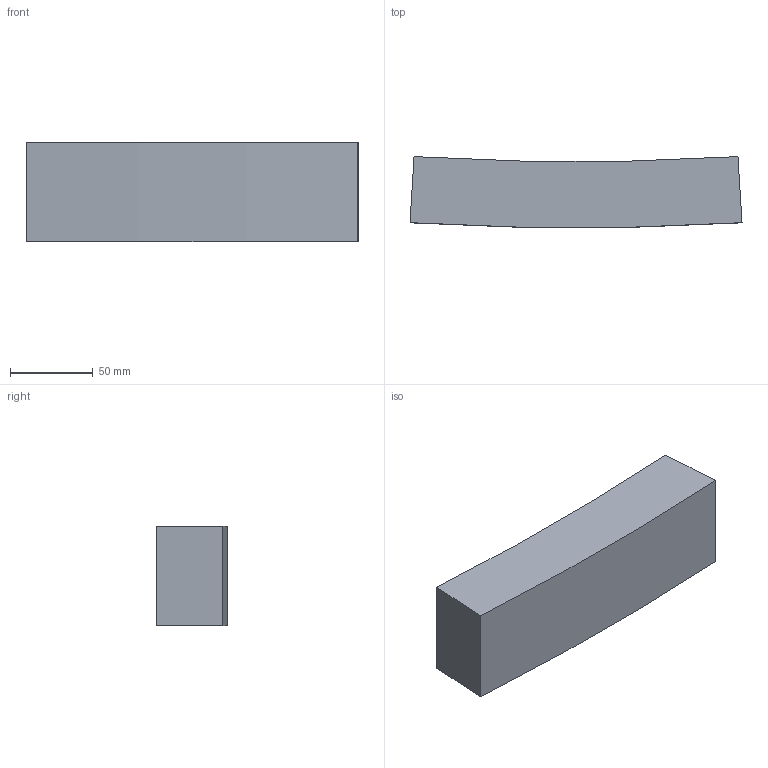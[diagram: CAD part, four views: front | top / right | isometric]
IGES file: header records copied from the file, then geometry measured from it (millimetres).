
Start section:  PTC IGES file: d160-1600_fixbloc_d1600_pk-01.igs
Global section: file name: d160-1600_fixbloc_d1600_pk-01.igs; native system: Creo Parametric by PTC Inc.; preprocessor: 2019030; author: demmerls; organization: Unknown; date: 20200928.110641; units: millimetre
Bounding box: 200.71 x 42.66 x 60 mm (x, y, z)
Surface area: 44477.8 mm2 (no closed solid volume)
Topology: 0 solids, 0 shells, 6 faces, 24 edges, 24 vertices
Faces by surface type: bspline 6
